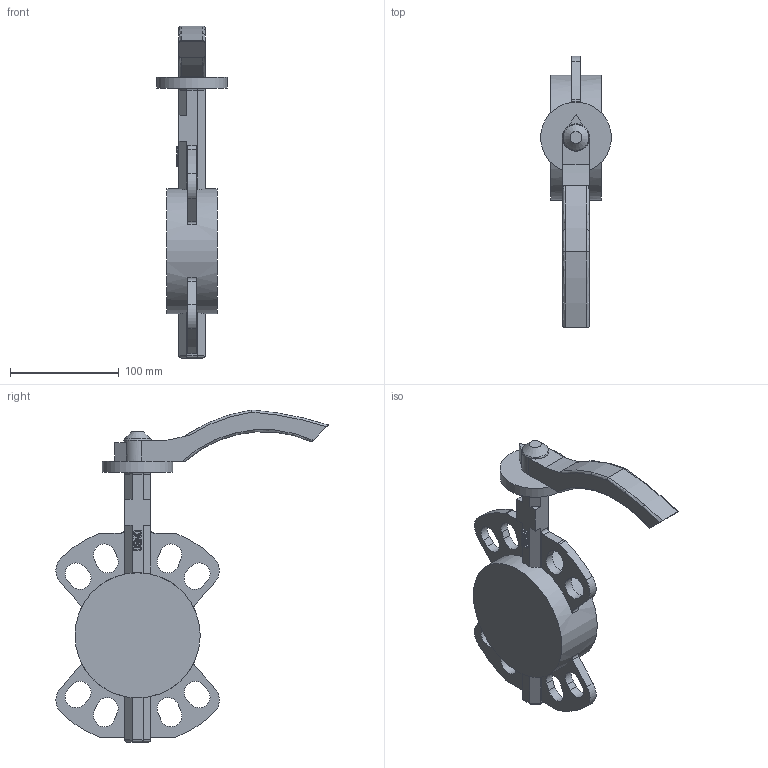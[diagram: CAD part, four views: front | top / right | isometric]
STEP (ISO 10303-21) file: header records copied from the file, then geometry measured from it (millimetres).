
FILE_DESCRIPTION(/* description */ (''),/* implementation_level */ '2;1');
FILE_NAME(/* name */ 'DN80-.stp',/* time_stamp */ '2026-08-14T16:36:37+08:00',/* author */ (''),/* organization */ (''),/* preprocessor_version */ 'ST-DEVELOPER v16.7',/* originating_system */ 'SIEMENS PLM Software NX 12.0',/* authorisation */ '');
FILE_SCHEMA (('AUTOMOTIVE_DESIGN { 1 0 10303 214 3 1 1 1 }'));
Length unit declared in the file: millimetre
Products named in the file (2): 手柄40-80; DN80
Assembly tree (1 placements, depth 2):
  DN80
    手柄40-80
Bounding box: 65 x 250.05 x 305 mm (x, y, z)
Volume: 721566.4 mm3; surface area: 93616.8 mm2
Topology: 6 solids, 6 shells, 233 faces, 635 edges, 417 vertices
Faces by surface type: plane 97, extrusion 70, cylinder 58, torus 7, cone 1
Full cylindrical faces by diameter (mm): 25 x1, 65 x1, 115 x1
Entity records: 7847 total; most frequent: CARTESIAN_POINT 2080, ORIENTED_EDGE 1252, DIRECTION 992, EDGE_CURVE 626, VERTEX_POINT 413, VECTOR 408, LINE 338, AXIS2_PLACEMENT_3D 292
